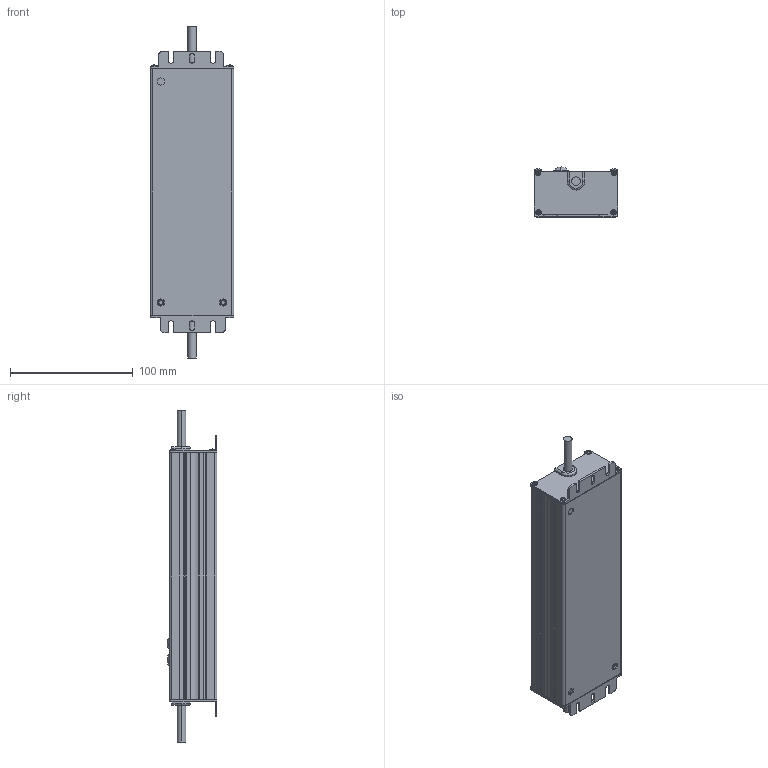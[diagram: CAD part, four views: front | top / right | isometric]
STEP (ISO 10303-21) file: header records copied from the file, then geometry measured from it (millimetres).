
FILE_DESCRIPTION((''),'2;1');
FILE_NAME('LNE-48V185WACA-EVT2_120314__ASM','2015-05-12T',('ERIC.YP.CHEN'),(''),'PRO/ENGINEER BY PARAMETRIC TECHNOLOGY CORPORATION, 2010280','PRO/ENGINEER BY PARAMETRIC TECHNOLOGY CORPORATION, 2010280','');
FILE_SCHEMA(('CONFIG_CONTROL_DESIGN'));
Length unit declared in the file: millimetre
Products named in the file (14): PLUG-15__W___ANY; SCREW_02__W___ANY; LHE-185W_CHASSIS__W___ANY; PCB-185W__W___ANY; 185W_PWB__W___ANY_ASM; M3_SCREW_BAR__W___ANY; FIX_BOARD-AC-NEW__W___ANY; RUBBER_SEAL__W___ANY; GM-3IV0-NEW__W___ANY; LHE-185W_COVER__W___ANY; LNE-48V185WACA-EVT2_120314__ANY_ASM; _LNE-48V185WACA-EVT2_120314_; LABEL; LNE-48V185WACA-EVT2_120314__ASM
Assembly tree (20 placements, depth 4):
  LNE-48V185WACA-EVT2_120314__ASM
    LNE-48V185WACA-EVT2_120314__ANY_ASM
      PLUG-15__W___ANY  x2
      SCREW_02__W___ANY  x4
      LHE-185W_CHASSIS__W___ANY
      185W_PWB__W___ANY_ASM
        PCB-185W__W___ANY
      M3_SCREW_BAR__W___ANY
      FIX_BOARD-AC-NEW__W___ANY
      RUBBER_SEAL__W___ANY
      GM-3IV0-NEW__W___ANY
      LHE-185W_COVER__W___ANY
    _LNE-48V185WACA-EVT2_120314_
    LABEL
    RUBBER_SEAL__W___ANY
    FIX_BOARD-AC-NEW__W___ANY
    GM-3IV0-NEW__W___ANY
Bounding box: 68 x 40.7 x 270.4 mm (x, y, z)
Volume: 124446.5 mm3; surface area: 159004.5 mm2
Topology: 17 solids, 17 shells, 815 faces, 2097 edges, 1354 vertices
Faces by surface type: plane 320, cylinder 295, cone 148, torus 40, bspline 12
Entity records: 15517 total; most frequent: CARTESIAN_POINT 3108, DIRECTION 2689, ORIENTED_EDGE 2472, EDGE_CURVE 1236, AXIS2_PLACEMENT_3D 998, VERTEX_POINT 816, VECTOR 693, LINE 693
